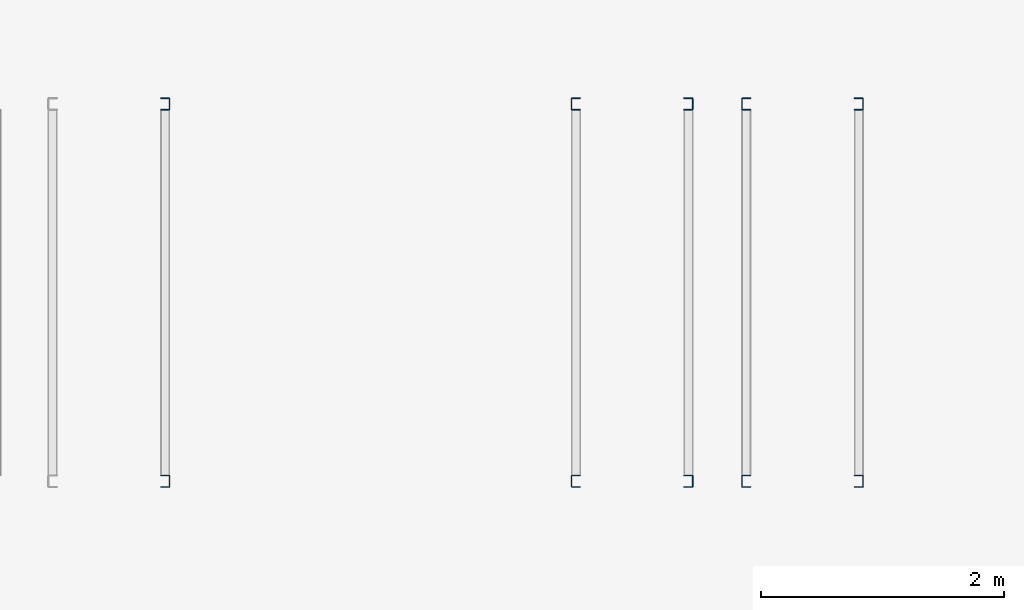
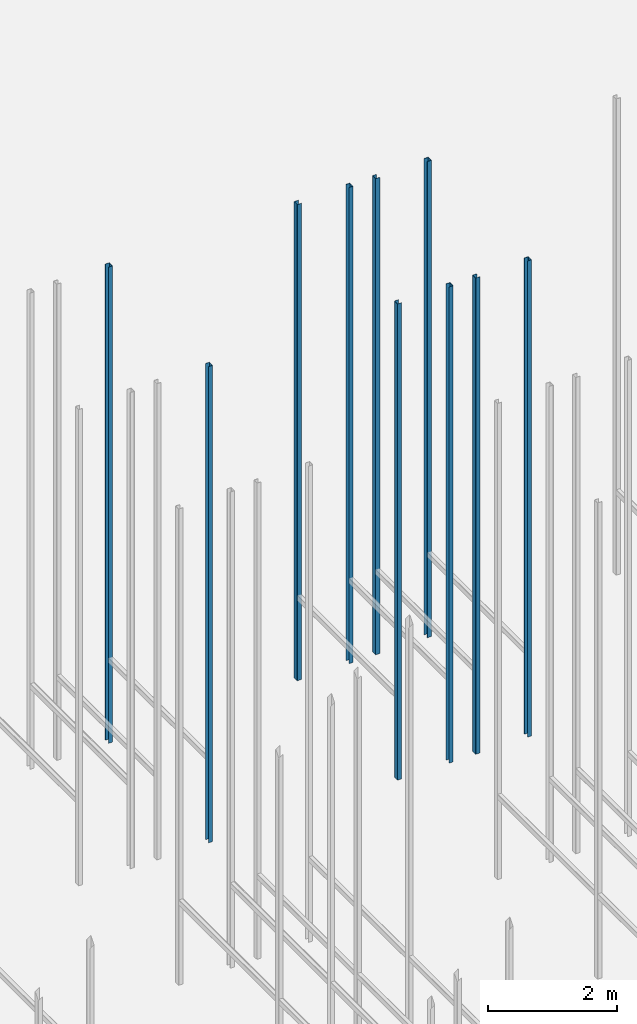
# One storey, part 35 of 302: 10 columns.
"""IFC2X3 building model written with IfcOpenShell, lengths in metres."""

from ifc_helpers import new_model, entity, si_unit, converted_unit, derived_unit, direction, frame, frame_2d, origin, place, context, subcontext, project, spatial, polyline, circle_curve, parameter, trimmed, segment, composite_curve, outline, extrude, source, transform, mapped, material, type_object, type_shapes, element, save


model = new_model("IFC2X3")

# Units and contexts
model_context = context("Model", 3, precision=1e-05, world=origin(), true_north=direction((6.12303176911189e-17, 1.0)))
body_context = subcontext(model_context, "Body", "Model", "MODEL_VIEW")
ifc_project = project(units=[si_unit("LENGTHUNIT", "METRE"), si_unit("AREAUNIT", "SQUARE_METRE"), si_unit("VOLUMEUNIT", "CUBIC_METRE"), converted_unit("PLANEANGLEUNIT", "DEGREE", entity("IfcRatioMeasure", 0.0174532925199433), si_unit("PLANEANGLEUNIT", "RADIAN"), dimensions=[0, 0, 0, 0, 0, 0, 0]), si_unit("MASSUNIT", "GRAM", prefix="KILO"), derived_unit("MASSDENSITYUNIT", [(si_unit("MASSUNIT", "GRAM", prefix="KILO"), 1), (si_unit("LENGTHUNIT", "METRE"), -3)]), derived_unit("MOMENTOFINERTIAUNIT", [(si_unit("LENGTHUNIT", "METRE"), 4)]), si_unit("TIMEUNIT", "SECOND"), si_unit("FREQUENCYUNIT", "HERTZ"), si_unit("THERMODYNAMICTEMPERATUREUNIT", "DEGREE_CELSIUS"), derived_unit("THERMALTRANSMITTANCEUNIT", [(si_unit("MASSUNIT", "GRAM", prefix="KILO"), 1), (si_unit("THERMODYNAMICTEMPERATUREUNIT", "KELVIN"), -1), (si_unit("TIMEUNIT", "SECOND"), -3)]), derived_unit("VOLUMETRICFLOWRATEUNIT", [(si_unit("LENGTHUNIT", "METRE"), 3), (si_unit("TIMEUNIT", "SECOND"), -1)]), si_unit("ELECTRICCURRENTUNIT", "AMPERE"), si_unit("ELECTRICVOLTAGEUNIT", "VOLT"), si_unit("POWERUNIT", "WATT"), si_unit("FORCEUNIT", "NEWTON", prefix="KILO"), si_unit("ILLUMINANCEUNIT", "LUX"), si_unit("LUMINOUSFLUXUNIT", "LUMEN"), si_unit("LUMINOUSINTENSITYUNIT", "CANDELA"), derived_unit("USERDEFINED", [(si_unit("MASSUNIT", "GRAM", prefix="KILO"), -1), (si_unit("LENGTHUNIT", "METRE"), -2), (si_unit("TIMEUNIT", "SECOND"), 3), (si_unit("LUMINOUSFLUXUNIT", "LUMEN"), 1)]), derived_unit("LINEARVELOCITYUNIT", [(si_unit("LENGTHUNIT", "METRE"), 1), (si_unit("TIMEUNIT", "SECOND"), -1)]), si_unit("PRESSUREUNIT", "PASCAL"), derived_unit("USERDEFINED", [(si_unit("LENGTHUNIT", "METRE"), -2), (si_unit("MASSUNIT", "GRAM", prefix="KILO"), 1), (si_unit("TIMEUNIT", "SECOND"), -2)]), derived_unit("LINEARFORCEUNIT", [(si_unit("MASSUNIT", "GRAM", prefix="KILO"), 1), (si_unit("LENGTHUNIT", "METRE"), 1), (si_unit("TIMEUNIT", "SECOND"), -2), (si_unit("LENGTHUNIT", "METRE"), -1)]), derived_unit("PLANARFORCEUNIT", [(si_unit("MASSUNIT", "GRAM", prefix="KILO"), 1), (si_unit("LENGTHUNIT", "METRE"), 1), (si_unit("TIMEUNIT", "SECOND"), -2), (si_unit("LENGTHUNIT", "METRE"), -2)])], contexts=[model_context])

# Site, building, storey
site_placement = place(None, origin())
site = spatial("IfcSite", under=ifc_project, at=site_placement, Name="Default", CompositionType="ELEMENT")
building_placement = place(site_placement, origin())
building = spatial("IfcBuilding", under=site, at=building_placement, CompositionType="ELEMENT")
storey_placement = place(building_placement, frame((0.0, 0.0, -1.3)))
storey = spatial("IfcBuildingStorey", under=building, at=storey_placement, Name="00_EG", CompositionType="ELEMENT", Elevation=-1.3)

# Columns
ifc_material = material(Name="Metall - Baustahl S235")
column_type_1 = type_object("IfcColumnType", Name="Leichter Stahl Schlossschrauben Stütze:C 100", PredefinedType="COLUMN", material=ifc_material)
shared_shape_1 = source(origin(), body_context, "Body", "SweptSolid", [
    extrude(outline(composite_curve([segment(polyline([(-0.0469749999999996, -0.0499999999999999), (0.0214500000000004, -0.0499999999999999)]), True, "CONTINUOUS"), segment(trimmed(circle_curve(frame_2d((0.0214500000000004, -0.0434249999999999), x_axis=(0.0, -1.0)), 0.00657500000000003), [parameter(0.0)], [parameter(89.9999999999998)], True, "PARAMETER"), True, "CONTINUOUS"), segment(polyline([(0.0280250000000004, -0.0434249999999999), (0.0280250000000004, 0.0434250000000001)]), True, "CONTINUOUS"), segment(trimmed(circle_curve(frame_2d((0.0214500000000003, 0.0434250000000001), x_axis=(1.0, 0.0)), 0.0065750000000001), [parameter(0.0)], [parameter(89.9999999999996)], True, "PARAMETER"), True, "CONTINUOUS"), segment(polyline([(0.0214500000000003, 0.0500000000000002), (-0.0469750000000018, 0.0500000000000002)]), True, "CONTINUOUS"), segment(polyline([(-0.0469750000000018, 0.0500000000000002), (-0.0469750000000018, 0.0450000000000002)]), True, "CONTINUOUS"), segment(polyline([(-0.0469750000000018, 0.0450000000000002), (0.0214500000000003, 0.0450000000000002)]), True, "CONTINUOUS"), segment(trimmed(circle_curve(frame_2d((0.0214500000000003, 0.0434249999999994), x_axis=(0.0, 1.0)), 0.00157500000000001), [parameter(269.999999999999)], [parameter(0.0)], True, "PARAMETER"), False, "CONTINUOUS"), segment(polyline([(0.0230250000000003, 0.0434249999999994), (0.0230250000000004, -0.0434249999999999)]), True, "CONTINUOUS"), segment(trimmed(circle_curve(frame_2d((0.0214500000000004, -0.0434249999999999), x_axis=(1.0, 0.0)), 0.00157500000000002), [parameter(270.0)], [parameter(0.0)], True, "PARAMETER"), False, "CONTINUOUS"), segment(polyline([(0.0214500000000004, -0.0449999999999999), (-0.0469749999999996, -0.0449999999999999)]), True, "CONTINUOUS"), segment(polyline([(-0.0469749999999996, -0.0449999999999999), (-0.0469749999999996, -0.0499999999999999)]), True, "CONTINUOUS")], self_intersect=False)), frame((0.0499999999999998, 0.0280250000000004, -0.0300000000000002), z_axis=(0.0, 0.0, 1.0), x_axis=(0.0, -1.0, 0.0)), (0.0, 0.0, 1.0), 9.0),
])
type_shapes(column_type_1, [shared_shape_1])
for number, where, z_axis, x_axis in (
    (1, (-196.490111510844, 48.848088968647, 1.3), (0.0, 0.0, 1.0), (0.0, -1.0, 0.0)),
    (2, (-196.490111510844, 51.948088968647, 1.3), (0.0, 0.0, 1.0), (0.0, -1.0, 0.0)),
    (3, (-195.090111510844, 48.848088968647, 1.3), (0.0, 0.0, 1.0), (0.0, -1.0, 0.0)),
    (4, (-195.090111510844, 51.948088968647, 1.3), (0.0, 0.0, 1.0), (0.0, -1.0, 0.0)),
):
    element("IfcColumn", number, at=place(storey_placement, frame(where, z_axis=z_axis, x_axis=x_axis)), inside=storey, type_object=column_type_1, material=ifc_material, Name="Leichter Stahl Schlossschrauben Stütze:C 100", ObjectType="Leichter Stahl Schlossschrauben Stütze:C 100", context=body_context, shape_type="MappedRepresentation", body=[
        mapped(shared_shape_1, transform((0.0, 0.0, 0.0), scale=1.0)),
    ])
column_type_2 = type_object("IfcColumnType", Name="Leichter Stahl Schlossschrauben Stütze:C 100", PredefinedType="COLUMN", material=ifc_material)
shared_shape_2 = source(origin(), body_context, "Body", "SweptSolid", [
    extrude(outline(composite_curve([segment(polyline([(-0.0214500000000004, -0.0499999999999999), (0.0469749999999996, -0.0499999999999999)]), True, "CONTINUOUS"), segment(polyline([(0.0469749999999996, -0.0499999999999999), (0.0469749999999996, -0.0449999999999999)]), True, "CONTINUOUS"), segment(polyline([(0.0469749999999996, -0.0449999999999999), (-0.0214500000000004, -0.045)]), True, "CONTINUOUS"), segment(trimmed(circle_curve(frame_2d((-0.0214500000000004, -0.043425), x_axis=(0.0, -1.0)), 0.00157500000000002), [parameter(270.0)], [parameter(0.0)], True, "PARAMETER"), False, "CONTINUOUS"), segment(polyline([(-0.0230250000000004, -0.0434249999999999), (-0.0230250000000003, 0.0434249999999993)]), True, "CONTINUOUS"), segment(trimmed(circle_curve(frame_2d((-0.0214500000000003, 0.0434249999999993), x_axis=(-1.0, 0.0)), 0.00157500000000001), [parameter(269.999999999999)], [parameter(0.0)], True, "PARAMETER"), False, "CONTINUOUS"), segment(polyline([(-0.0214500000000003, 0.0450000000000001), (0.0469750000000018, 0.0450000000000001)]), True, "CONTINUOUS"), segment(polyline([(0.0469750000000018, 0.0450000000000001), (0.0469750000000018, 0.0500000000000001)]), True, "CONTINUOUS"), segment(polyline([(0.0469750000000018, 0.0500000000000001), (-0.0214500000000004, 0.0500000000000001)]), True, "CONTINUOUS"), segment(trimmed(circle_curve(frame_2d((-0.0214500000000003, 0.043425), x_axis=(0.0, 1.0)), 0.0065750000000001), [parameter(0.0)], [parameter(89.9999999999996)], True, "PARAMETER"), True, "CONTINUOUS"), segment(polyline([(-0.0280250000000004, 0.043425), (-0.0280250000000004, -0.043425)]), True, "CONTINUOUS"), segment(trimmed(circle_curve(frame_2d((-0.0214500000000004, -0.0434249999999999), x_axis=(-1.0, 0.0)), 0.00657500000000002), [parameter(0.0)], [parameter(89.9999999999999)], True, "PARAMETER"), True, "CONTINUOUS")], self_intersect=False)), frame((0.0499999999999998, -0.0280250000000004, -0.0300000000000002), z_axis=(0.0, 0.0, 1.0), x_axis=(0.0, -1.0, 0.0)), (0.0, 0.0, 1.0), 9.0),
])
type_shapes(column_type_2, [shared_shape_2])
for number, where, z_axis, x_axis in (
    (5, (-195.490111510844, 48.848088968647, 1.3), (0.0, 0.0, 1.0), (0.0, -1.0, 0.0)),
    (6, (-195.490111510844, 51.948088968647, 1.3), (0.0, 0.0, 1.0), (0.0, -1.0, 0.0)),
    (7, (-199.790111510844, 48.848088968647, 1.3), (0.0, 0.0, 1.0), (0.0, -1.0, 0.0)),
    (8, (-199.790111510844, 51.948088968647, 1.3), (0.0, 0.0, 1.0), (0.0, -1.0, 0.0)),
    (9, (-194.090111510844, 48.848088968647, 1.3), (0.0, 0.0, 1.0), (0.0, -1.0, 0.0)),
    (10, (-194.090111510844, 51.948088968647, 1.3), (0.0, 0.0, 1.0), (0.0, -1.0, 0.0)),
):
    element("IfcColumn", number, at=place(storey_placement, frame(where, z_axis=z_axis, x_axis=x_axis)), inside=storey, type_object=column_type_2, material=ifc_material, Name="Leichter Stahl Schlossschrauben Stütze:C 100", ObjectType="Leichter Stahl Schlossschrauben Stütze:C 100", context=body_context, shape_type="MappedRepresentation", body=[
        mapped(shared_shape_2, transform((0.0, 0.0, 0.0), scale=1.0)),
    ])

save(model, "model.ifc")
